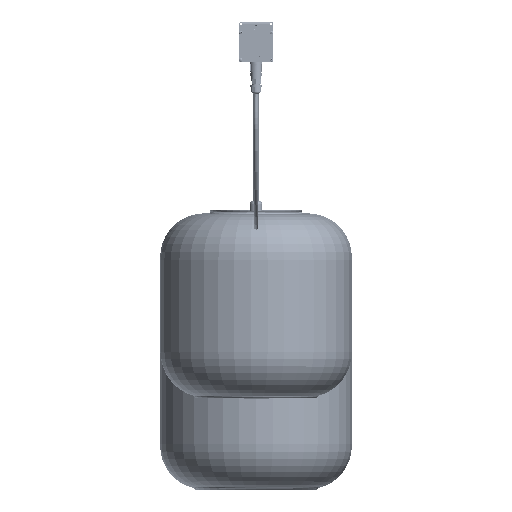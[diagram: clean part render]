
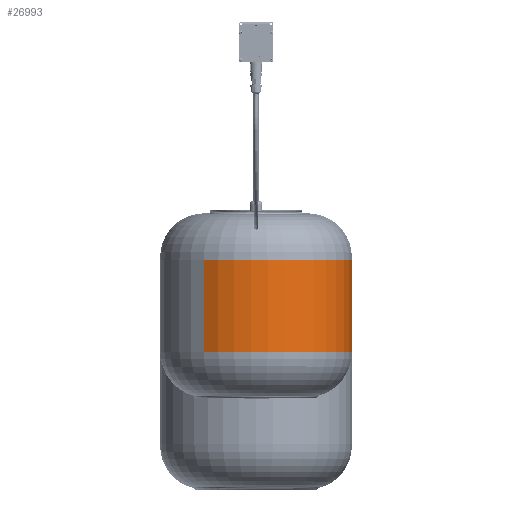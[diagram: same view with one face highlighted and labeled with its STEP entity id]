
A CAD part, top view. The second image highlights one B-rep face of the part: STEP entity #26993.
In plain terms, the highlighted cylindrical face has radius 157.5 mm (diameter 315 mm), a partial arc.
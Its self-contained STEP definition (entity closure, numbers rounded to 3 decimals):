
#2559 = CARTESIAN_POINT ( 'NONE',  ( 0., 76.414, 157.5 ) ) ;
#3751 = CARTESIAN_POINT ( 'NONE',  ( 0., -212.084, 157.5 ) ) ;
#8812 = ORIENTED_EDGE ( 'NONE', *, *, #118065, .F. ) ;
#9196 = ORIENTED_EDGE ( 'NONE', *, *, #118465, .F. ) ;
#11043 = FACE_OUTER_BOUND ( 'NONE', #102593, .T. ) ;
#13948 = CIRCLE ( 'NONE', #33826, 157.5 ) ;
#17756 = VERTEX_POINT ( 'NONE', #2559 ) ;
#18115 = VERTEX_POINT ( 'NONE', #36155 ) ;
#23421 = DIRECTION ( 'NONE',  ( 0., 0., -1. ) ) ;
#24625 = ORIENTED_EDGE ( 'NONE', *, *, #90078, .T. ) ;
#26993 = ADVANCED_FACE ( 'NONE', ( #11043 ), #75854, .T. ) ;
#27564 = VECTOR ( 'NONE', #95642, 1000. ) ;
#33407 = DIRECTION ( 'NONE',  ( 0., -1., 0. ) ) ;
#33826 = AXIS2_PLACEMENT_3D ( 'NONE', #69616, #66918, #100121 ) ;
#36155 = CARTESIAN_POINT ( 'NONE',  ( 0., -75., -157.5 ) ) ;
#41207 = AXIS2_PLACEMENT_3D ( 'NONE', #108341, #98006, #23421 ) ;
#47358 = DIRECTION ( 'NONE',  ( 0., -1., 0. ) ) ;
#56360 = DIRECTION ( 'NONE',  ( 0., 0., -1. ) ) ;
#57438 = VERTEX_POINT ( 'NONE', #102421 ) ;
#66599 = CARTESIAN_POINT ( 'NONE',  ( 0., -75., 157.5 ) ) ;
#66918 = DIRECTION ( 'NONE',  ( 0., -1., 0. ) ) ;
#68723 = CARTESIAN_POINT ( 'NONE',  ( 0., -75., 0. ) ) ;
#69616 = CARTESIAN_POINT ( 'NONE',  ( 0., 76.414, 0. ) ) ;
#75854 = CYLINDRICAL_SURFACE ( 'NONE', #41207, 157.5 ) ;
#84561 = CARTESIAN_POINT ( 'NONE',  ( 0., -212.084, -157.5 ) ) ;
#87365 = ORIENTED_EDGE ( 'NONE', *, *, #104377, .T. ) ;
#90078 = EDGE_CURVE ( 'NONE', #17756, #126007, #127991, .T. ) ;
#91519 = AXIS2_PLACEMENT_3D ( 'NONE', #68723, #47358, #56360 ) ;
#95642 = DIRECTION ( 'NONE',  ( 0., -1., 0. ) ) ;
#98006 = DIRECTION ( 'NONE',  ( 0., -1., 0. ) ) ;
#100121 = DIRECTION ( 'NONE',  ( 0., 0., -1. ) ) ;
#102421 = CARTESIAN_POINT ( 'NONE',  ( 0., 76.414, -157.5 ) ) ;
#102593 = EDGE_LOOP ( 'NONE', ( #87365, #24625, #8812, #9196 ) ) ;
#104377 = EDGE_CURVE ( 'NONE', #57438, #17756, #13948, .T. ) ;
#105349 = LINE ( 'NONE', #84561, #27564 ) ;
#108341 = CARTESIAN_POINT ( 'NONE',  ( 0., -212.084, 0. ) ) ;
#118045 = CIRCLE ( 'NONE', #91519, 157.5 ) ;
#118065 = EDGE_CURVE ( 'NONE', #18115, #126007, #118045, .T. ) ;
#118465 = EDGE_CURVE ( 'NONE', #57438, #18115, #105349, .T. ) ;
#125609 = VECTOR ( 'NONE', #33407, 1000. ) ;
#126007 = VERTEX_POINT ( 'NONE', #66599 ) ;
#127991 = LINE ( 'NONE', #3751, #125609 ) ;
